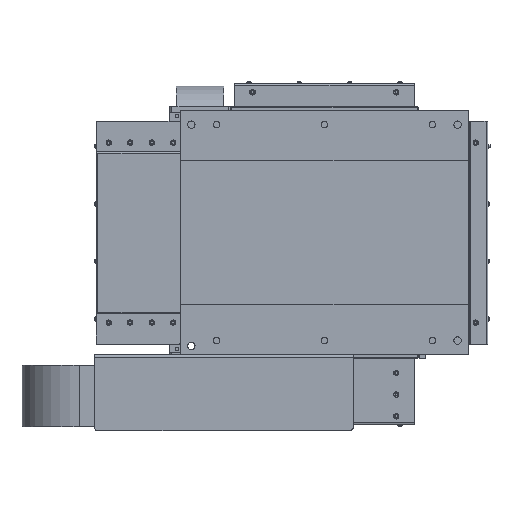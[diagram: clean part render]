
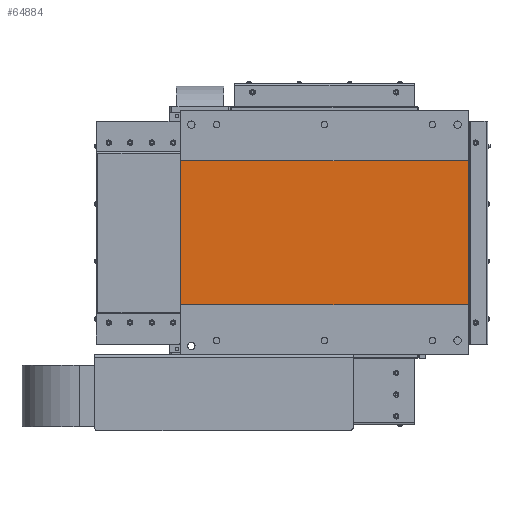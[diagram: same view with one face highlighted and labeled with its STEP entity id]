
A CAD part, front view. The second image highlights one B-rep face of the part: STEP entity #64884.
In plain terms, the highlighted planar face has unit normal (0, -1, 0).
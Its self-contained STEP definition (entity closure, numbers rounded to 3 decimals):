
#6025 = CARTESIAN_POINT ( 'NONE',  ( -200., 0.5, -100. ) ) ;
#13803 = ORIENTED_EDGE ( 'NONE', *, *, #83886, .F. ) ;
#14623 = DIRECTION ( 'NONE',  ( 1., 0., 0. ) ) ;
#16103 = VECTOR ( 'NONE', #53749, 1000. ) ;
#21764 = VERTEX_POINT ( 'NONE', #85409 ) ;
#22029 = CARTESIAN_POINT ( 'NONE',  ( -200., 0.5, 100. ) ) ;
#28237 = VERTEX_POINT ( 'NONE', #78387 ) ;
#29919 = CARTESIAN_POINT ( 'NONE',  ( -200., 0.5, 100. ) ) ;
#32157 = AXIS2_PLACEMENT_3D ( 'NONE', #39103, #81384, #105219 ) ;
#33480 = CARTESIAN_POINT ( 'NONE',  ( -200., 0.5, 100. ) ) ;
#34936 = DIRECTION ( 'NONE',  ( -1., 0., 0. ) ) ;
#35605 = LINE ( 'NONE', #22029, #16103 ) ;
#35975 = ORIENTED_EDGE ( 'NONE', *, *, #67379, .F. ) ;
#39103 = CARTESIAN_POINT ( 'NONE',  ( 200., 0.5, 100. ) ) ;
#45608 = ORIENTED_EDGE ( 'NONE', *, *, #57210, .F. ) ;
#49296 = VERTEX_POINT ( 'NONE', #33480 ) ;
#53749 = DIRECTION ( 'NONE',  ( 0., 0., 1. ) ) ;
#54372 = VECTOR ( 'NONE', #80592, 1000. ) ;
#55644 = LINE ( 'NONE', #95933, #54372 ) ;
#55876 = VERTEX_POINT ( 'NONE', #6025 ) ;
#56967 = VECTOR ( 'NONE', #14623, 1000. ) ;
#57210 = EDGE_CURVE ( 'NONE', #49296, #21764, #79151, .T. ) ;
#63912 = PLANE ( 'NONE',  #32157 ) ;
#64884 = ADVANCED_FACE ( 'NONE', ( #88033 ), #63912, .F. ) ;
#64889 = EDGE_LOOP ( 'NONE', ( #45608, #97399, #35975, #13803 ) ) ;
#67379 = EDGE_CURVE ( 'NONE', #28237, #55876, #67660, .T. ) ;
#67660 = LINE ( 'NONE', #102508, #101656 ) ;
#78387 = CARTESIAN_POINT ( 'NONE',  ( 200., 0.5, -100. ) ) ;
#79151 = LINE ( 'NONE', #29919, #56967 ) ;
#80592 = DIRECTION ( 'NONE',  ( 0., 0., -1. ) ) ;
#81384 = DIRECTION ( 'NONE',  ( 0., 1., 0. ) ) ;
#83886 = EDGE_CURVE ( 'NONE', #21764, #28237, #55644, .T. ) ;
#85409 = CARTESIAN_POINT ( 'NONE',  ( 200., 0.5, 100. ) ) ;
#88033 = FACE_OUTER_BOUND ( 'NONE', #64889, .T. ) ;
#95933 = CARTESIAN_POINT ( 'NONE',  ( 200., 0.5, 100. ) ) ;
#97399 = ORIENTED_EDGE ( 'NONE', *, *, #102608, .F. ) ;
#101656 = VECTOR ( 'NONE', #34936, 1000. ) ;
#102508 = CARTESIAN_POINT ( 'NONE',  ( -200., 0.5, -100. ) ) ;
#102608 = EDGE_CURVE ( 'NONE', #55876, #49296, #35605, .T. ) ;
#105219 = DIRECTION ( 'NONE',  ( 0., 0., -1. ) ) ;
